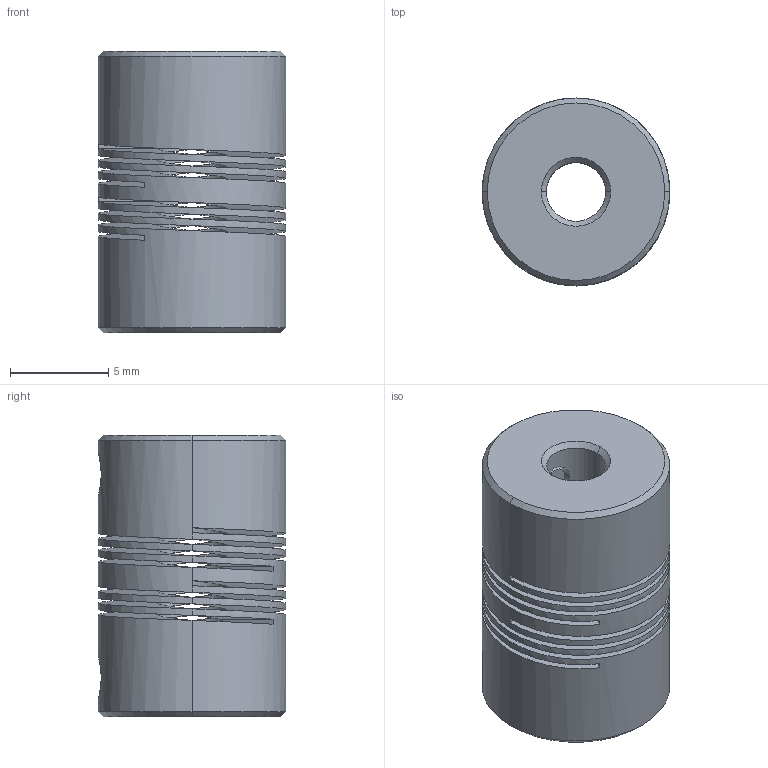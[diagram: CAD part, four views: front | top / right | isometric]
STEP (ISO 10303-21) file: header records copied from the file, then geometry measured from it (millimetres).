
FILE_DESCRIPTION((''),'2;1');
FILE_NAME('PSMR10-3-3-A','2016-09-08T',('SYSTEM'),(''),'PRO/ENGINEER BY PARAMETRIC TECHNOLOGY CORPORATION, 2015110','PRO/ENGINEER BY PARAMETRIC TECHNOLOGY CORPORATION, 2015110','');
FILE_SCHEMA(('AUTOMOTIVE_DESIGN { 1 0 10303 214 1 1 1 1 }'));
Length unit declared in the file: millimetre
Products named in the file (1): PSMR10-3-3-A
Bounding box: 9.53 x 9.53 x 14.3 mm (x, y, z)
Volume: 786.9 mm3; surface area: 1517.5 mm2
Topology: 3 solids, 3 shells, 100 faces, 256 edges, 156 vertices
Faces by surface type: cylinder 40, plane 28, cone 20, bspline 12
Entity records: 6807 total; most frequent: CARTESIAN_POINT 3689, ORIENTED_EDGE 512, DIRECTION 396, PRESENTATION_STYLE_ASSIGNMENT 259, STYLED_ITEM 259, CURVE_STYLE 256, EDGE_CURVE 256, VERTEX_POINT 156
